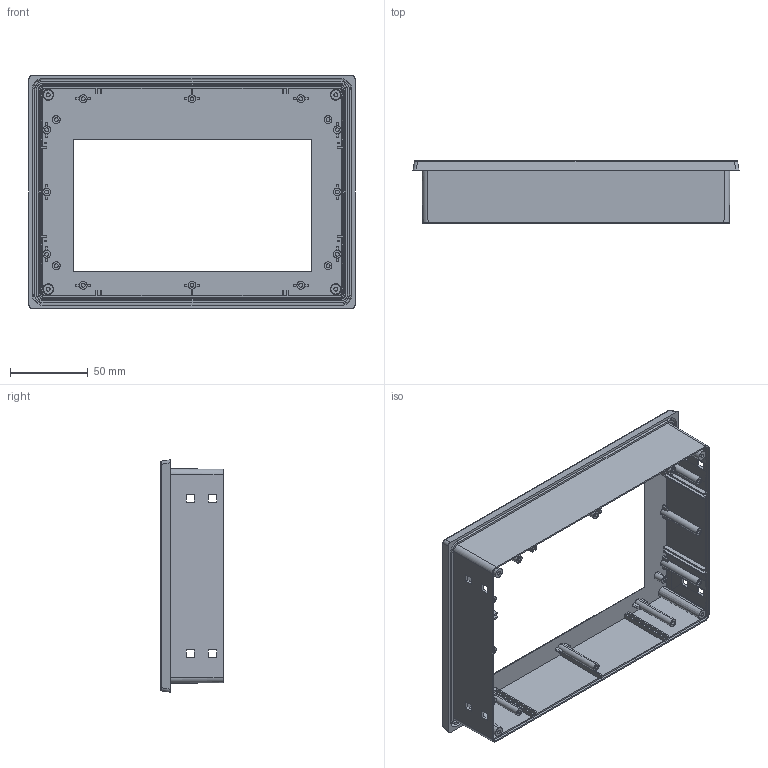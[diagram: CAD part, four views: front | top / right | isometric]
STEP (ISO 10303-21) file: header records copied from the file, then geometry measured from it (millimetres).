
FILE_DESCRIPTION (( 'STEP AP214' ), '1' );
FILE_NAME ('OP-358KATý MODEL.STEP', '2023-07-08T06:22:29', ( '' ), ( '' ), 'SwSTEP 2.0', 'SolidWorks 2021', '' );
FILE_SCHEMA (( 'AUTOMOTIVE_DESIGN' ));
Length unit declared in the file: millimetre
Products named in the file (1): OP-358KATý MODEL
Bounding box: 209.7 x 40.01 x 149.7 mm (x, y, z)
Volume: 117458.9 mm3; surface area: 113873.4 mm2
Topology: 1 solids, 1 shells, 555 faces, 1476 edges, 968 vertices
Faces by surface type: plane 379, cylinder 148, cone 16, bspline 12
Entity records: 21189 total; most frequent: CARTESIAN_POINT 10126, ORIENTED_EDGE 2952, EDGE_CURVE 1476, B_SPLINE_CURVE_WITH_KNOTS 1363, DIRECTION 1188, VERTEX_POINT 968, EDGE_LOOP 618, FACE_OUTER_BOUND 555
